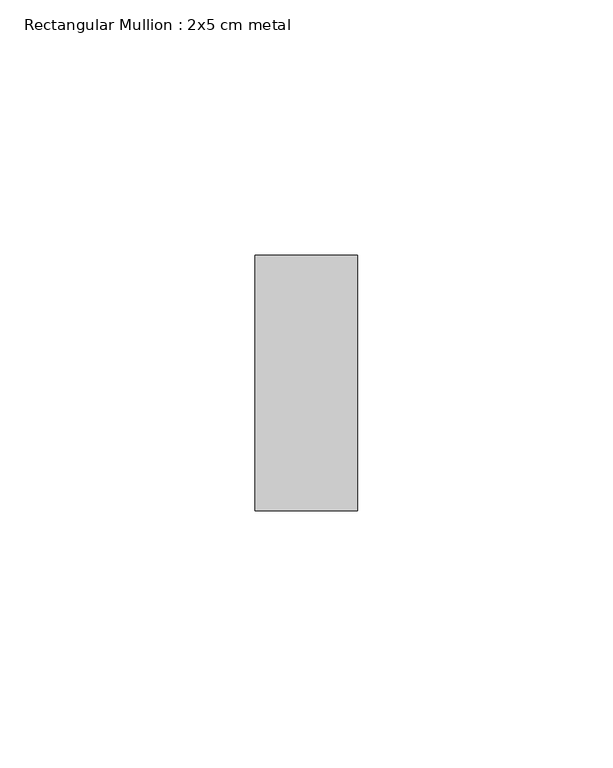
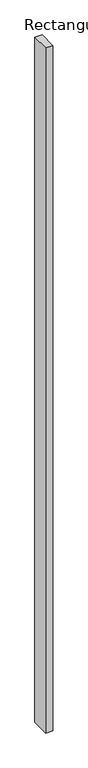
"""IFC4 building model written with IfcOpenShell, lengths in millimetres: member geometry, Rectangular Mullion : 2x5 cm metal."""

from ifc_helpers import new_model, si_unit, frame, origin, place, context, project, spatial, polyline, outline, extrude, source, transform, mapped, element, save


def rectangular_mullion_2x5_cm_metal_33b99752(model_context):
    return source(origin(), model_context, "Body", "SweptSolid", [
        extrude(outline(polyline([(10.0, 25.0), (10.0, -25.0), (-10.0, -25.0), (-10.0, 25.0), (10.0, 25.0)])), frame((0.0, 0.0, -1959.9478635), z_axis=(0.0, 0.0, 1.0), x_axis=(1.0, 0.0, 0.0)), (0.0, 0.0, 1.0), 1959.9478635),
    ])


if __name__ == "__main__":
    model = new_model("IFC4")
    model_context = context("Model", 3, world=origin())
    ifc_project = project(units=[si_unit("LENGTHUNIT", "METRE", prefix="MILLI")], contexts=[model_context])
    site = spatial("IfcSite", under=ifc_project)
    building = spatial("IfcBuilding", under=site)
    placement = place(None, origin())
    rectangular_mullion_2x5_cm_metal_shape = rectangular_mullion_2x5_cm_metal_33b99752(model_context)
    element("IfcMember", 1, ObjectType="Rectangular Mullion : 2x5 cm metal", at=placement, inside=building, context=model_context, shape_type="MappedRepresentation", body=[
        mapped(rectangular_mullion_2x5_cm_metal_shape, transform((0.0, 0.0, 0.0), x_axis=(1.0, 0.0, 0.0), y_axis=(0.0, 1.0, 0.0), z_axis=(0.0, 0.0, 1.0))),
    ])
    save(model, "model.ifc")
